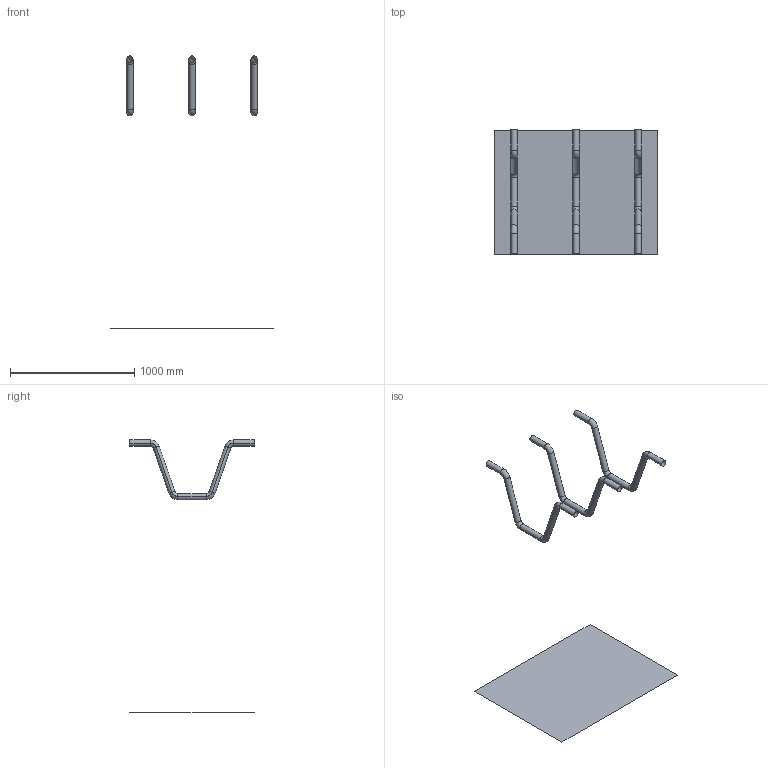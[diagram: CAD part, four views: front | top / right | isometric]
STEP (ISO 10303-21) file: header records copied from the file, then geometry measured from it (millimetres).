
FILE_DESCRIPTION(('CATIA V5 STEP Exchange'),'2;1');
FILE_NAME('C:\_Andres\UNIVERSIDAD\IQS\ASIGNATURAS\DAO\EXF\EXF-16172c\2inicio\Sarasa_Prat_Ej08_v32.stp','2017-03-05T21:54:58+00:00',('none'),('none'),'CATIA Version 5-6 Release 2014 SP1 HF18','CATIA V5 STEP AP203','none');
FILE_SCHEMA(('CONFIG_CONTROL_DESIGN'));
Length unit declared in the file: millimetre
Products named in the file (1): Sarasa_Prat_Ej08_v32
Bounding box: 1320 x 1000 x 2193 mm (x, y, z)
Surface area: 2063324.4 mm2 (no closed solid volume)
Topology: 0 solids, 4 shells, 55 faces, 118 edges, 64 vertices
Faces by surface type: cylinder 30, torus 24, plane 1
Entity records: 1283 total; most frequent: ORIENTED_EDGE 220, CARTESIAN_POINT 208, DIRECTION 168, EDGE_CURVE 118, AXIS2_PLACEMENT_3D 110, CIRCLE 84, VERTEX_POINT 64, ADVANCED_FACE 55
